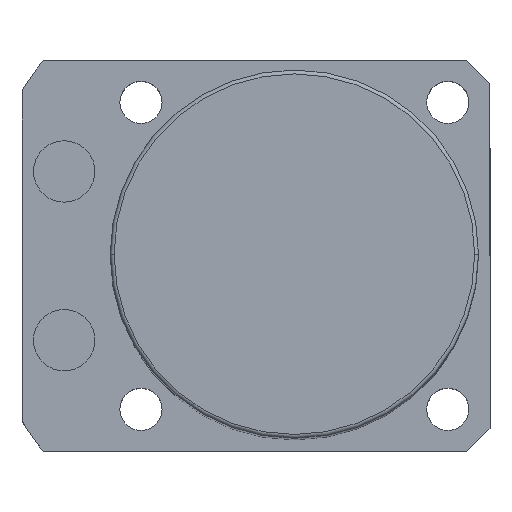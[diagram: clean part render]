
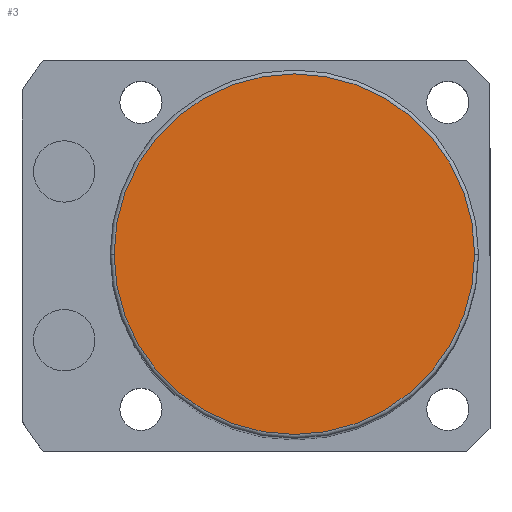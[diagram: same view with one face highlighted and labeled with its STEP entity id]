
A CAD part, top view. The second image highlights one B-rep face of the part: STEP entity #3.
In plain terms, the highlighted planar face has unit normal (0, 0, 1).
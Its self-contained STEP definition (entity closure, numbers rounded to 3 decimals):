
#3 = ADVANCED_FACE ( 'NONE', ( #1500 ), #293, .T. ) ;
#19 = CARTESIAN_POINT ( 'NONE',  ( 0., 0., 136. ) ) ;
#156 = AXIS2_PLACEMENT_3D ( 'NONE', #19, #971, #1582 ) ;
#259 = CARTESIAN_POINT ( 'NONE',  ( -23.5, 0., 136. ) ) ;
#293 = PLANE ( 'NONE',  #760 ) ;
#312 = DIRECTION ( 'NONE',  ( 0., 0., 1. ) ) ;
#699 = CARTESIAN_POINT ( 'NONE',  ( 0., 0., 136. ) ) ;
#760 = AXIS2_PLACEMENT_3D ( 'NONE', #1420, #1451, #1066 ) ;
#971 = DIRECTION ( 'NONE',  ( 0., 0., 1. ) ) ;
#979 = AXIS2_PLACEMENT_3D ( 'NONE', #699, #312, #1654 ) ;
#1066 = DIRECTION ( 'NONE',  ( 1., 0., 0. ) ) ;
#1143 = ORIENTED_EDGE ( 'NONE', *, *, #2328, .T. ) ;
#1420 = CARTESIAN_POINT ( 'NONE',  ( 0., 0., 136. ) ) ;
#1451 = DIRECTION ( 'NONE',  ( 0., 0., 1. ) ) ;
#1479 = VERTEX_POINT ( 'NONE', #259 ) ;
#1500 = FACE_OUTER_BOUND ( 'NONE', #2131, .T. ) ;
#1582 = DIRECTION ( 'NONE',  ( 1., 0., 0. ) ) ;
#1606 = CIRCLE ( 'NONE', #156, 23.5 ) ;
#1637 = EDGE_CURVE ( 'NONE', #1479, #2050, #1872, .T. ) ;
#1654 = DIRECTION ( 'NONE',  ( 1., 0., 0. ) ) ;
#1872 = CIRCLE ( 'NONE', #979, 23.5 ) ;
#1932 = ORIENTED_EDGE ( 'NONE', *, *, #1637, .T. ) ;
#2050 = VERTEX_POINT ( 'NONE', #2214 ) ;
#2131 = EDGE_LOOP ( 'NONE', ( #1143, #1932 ) ) ;
#2214 = CARTESIAN_POINT ( 'NONE',  ( 23.5, 0., 136. ) ) ;
#2328 = EDGE_CURVE ( 'NONE', #2050, #1479, #1606, .T. ) ;
